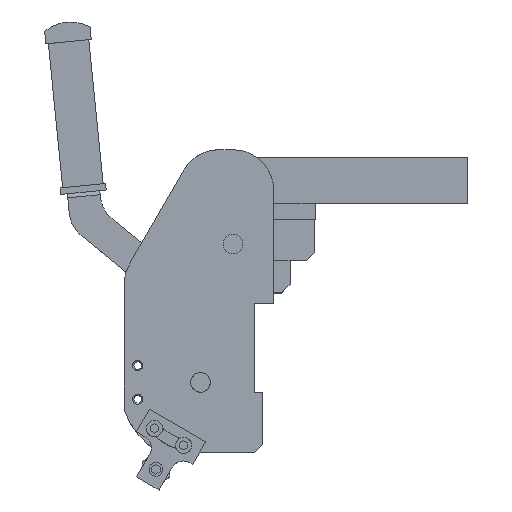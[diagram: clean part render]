
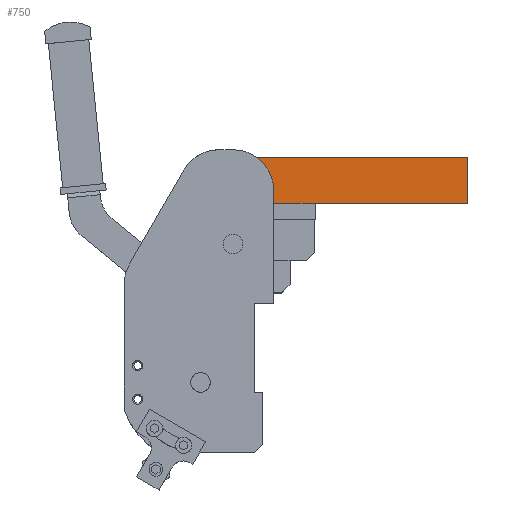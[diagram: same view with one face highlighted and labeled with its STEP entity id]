
A CAD part, top view. The second image highlights one B-rep face of the part: STEP entity #750.
In plain terms, the highlighted planar face has unit normal (0, 0, 1).
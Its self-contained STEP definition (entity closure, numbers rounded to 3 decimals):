
#33 = EDGE_CURVE ( 'NONE', #1979, #2106, #6235, .T. ) ;
#163 = CARTESIAN_POINT ( 'NONE',  ( 0., 28., 10. ) ) ;
#175 = CARTESIAN_POINT ( 'NONE',  ( 0.5, 0., 10. ) ) ;
#421 = DIRECTION ( 'NONE',  ( 0., 0., 1. ) ) ;
#435 = DIRECTION ( 'NONE',  ( 1., 0., 0. ) ) ;
#559 = CARTESIAN_POINT ( 'NONE',  ( 129., 28., 10. ) ) ;
#626 = PLANE ( 'NONE',  #5663 ) ;
#750 = ADVANCED_FACE ( 'NONE', ( #5526 ), #626, .T. ) ;
#848 = DIRECTION ( 'NONE',  ( 0., -1., 0. ) ) ;
#864 = CARTESIAN_POINT ( 'NONE',  ( 129., 28., 10. ) ) ;
#939 = VECTOR ( 'NONE', #4815, 1000. ) ;
#1639 = LINE ( 'NONE', #163, #8514 ) ;
#1705 = EDGE_CURVE ( 'NONE', #2592, #2159, #7273, .T. ) ;
#1979 = VERTEX_POINT ( 'NONE', #175 ) ;
#2106 = VERTEX_POINT ( 'NONE', #12319 ) ;
#2159 = VERTEX_POINT ( 'NONE', #11959 ) ;
#2164 = VECTOR ( 'NONE', #10826, 1000. ) ;
#2592 = VERTEX_POINT ( 'NONE', #8162 ) ;
#2826 = VERTEX_POINT ( 'NONE', #6494 ) ;
#2911 = VERTEX_POINT ( 'NONE', #5593 ) ;
#3304 = VECTOR ( 'NONE', #5694, 1000. ) ;
#3986 = EDGE_CURVE ( 'NONE', #2911, #1979, #10868, .T. ) ;
#4144 = ORIENTED_EDGE ( 'NONE', *, *, #1705, .F. ) ;
#4515 = ORIENTED_EDGE ( 'NONE', *, *, #33, .F. ) ;
#4815 = DIRECTION ( 'NONE',  ( -1., 0., 0. ) ) ;
#5514 = ORIENTED_EDGE ( 'NONE', *, *, #8620, .F. ) ;
#5515 = ORIENTED_EDGE ( 'NONE', *, *, #9020, .T. ) ;
#5526 = FACE_OUTER_BOUND ( 'NONE', #10857, .T. ) ;
#5593 = CARTESIAN_POINT ( 'NONE',  ( 35.5, 0., 10. ) ) ;
#5663 = AXIS2_PLACEMENT_3D ( 'NONE', #559, #421, #435 ) ;
#5694 = DIRECTION ( 'NONE',  ( 1., 0., 0. ) ) ;
#6115 = CARTESIAN_POINT ( 'NONE',  ( 129., 0., 10. ) ) ;
#6201 = DIRECTION ( 'NONE',  ( -1., 0., 0. ) ) ;
#6217 = CARTESIAN_POINT ( 'NONE',  ( 129., 0., 10. ) ) ;
#6235 = LINE ( 'NONE', #6217, #8834 ) ;
#6494 = CARTESIAN_POINT ( 'NONE',  ( 0., 28., 10. ) ) ;
#7187 = CARTESIAN_POINT ( 'NONE',  ( 0., 28., 10. ) ) ;
#7273 = LINE ( 'NONE', #864, #11322 ) ;
#7304 = ORIENTED_EDGE ( 'NONE', *, *, #3986, .F. ) ;
#7596 = LINE ( 'NONE', #6115, #939 ) ;
#8162 = CARTESIAN_POINT ( 'NONE',  ( 129., 28., 10. ) ) ;
#8465 = LINE ( 'NONE', #7187, #3304 ) ;
#8514 = VECTOR ( 'NONE', #11459, 1000. ) ;
#8620 = EDGE_CURVE ( 'NONE', #2826, #2592, #8465, .T. ) ;
#8834 = VECTOR ( 'NONE', #6201, 1000. ) ;
#9020 = EDGE_CURVE ( 'NONE', #2826, #2106, #1639, .T. ) ;
#9376 = ORIENTED_EDGE ( 'NONE', *, *, #9406, .F. ) ;
#9406 = EDGE_CURVE ( 'NONE', #2159, #2911, #7596, .T. ) ;
#10826 = DIRECTION ( 'NONE',  ( -1., 0., 0. ) ) ;
#10839 = CARTESIAN_POINT ( 'NONE',  ( 129., 0., 10. ) ) ;
#10857 = EDGE_LOOP ( 'NONE', ( #4144, #5514, #5515, #4515, #7304, #9376 ) ) ;
#10868 = LINE ( 'NONE', #10839, #2164 ) ;
#11322 = VECTOR ( 'NONE', #848, 1000. ) ;
#11459 = DIRECTION ( 'NONE',  ( 0., -1., 0. ) ) ;
#11959 = CARTESIAN_POINT ( 'NONE',  ( 129., 0., 10. ) ) ;
#12319 = CARTESIAN_POINT ( 'NONE',  ( 0., 0., 10. ) ) ;
